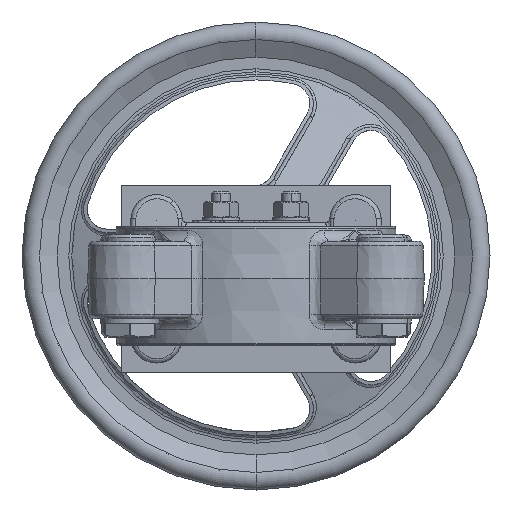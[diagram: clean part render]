
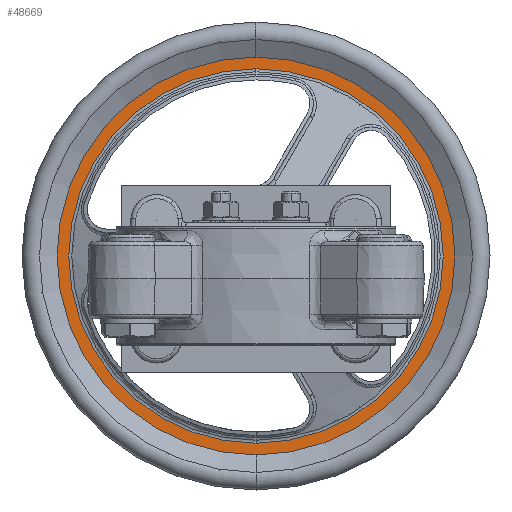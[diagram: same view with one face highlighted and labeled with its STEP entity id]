
A CAD part, front view. The second image highlights one B-rep face of the part: STEP entity #48669.
In plain terms, the highlighted planar face has unit normal (0, -1, 0).
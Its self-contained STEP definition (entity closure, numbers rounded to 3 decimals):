
#4218 = CARTESIAN_POINT ( 'NONE',  ( 0., 315., 9.75 ) ) ;
#7477 = DIRECTION ( 'NONE',  ( 0., 1., 0. ) ) ;
#11418 = CARTESIAN_POINT ( 'NONE',  ( 0., 315., -70.25 ) ) ;
#11598 = ORIENTED_EDGE ( 'NONE', *, *, #62574, .T. ) ;
#12718 = ORIENTED_EDGE ( 'NONE', *, *, #63543, .F. ) ;
#13590 = DIRECTION ( 'NONE',  ( 0., 0., -1. ) ) ;
#14060 = DIRECTION ( 'NONE',  ( 0., 0., -1. ) ) ;
#15931 = ORIENTED_EDGE ( 'NONE', *, *, #62147, .T. ) ;
#17453 = FACE_BOUND ( 'NONE', #60619, .T. ) ;
#19011 = CARTESIAN_POINT ( 'NONE',  ( 0., 315., 9.75 ) ) ;
#20856 = CIRCLE ( 'NONE', #56806, 85. ) ;
#21162 = DIRECTION ( 'NONE',  ( 0., 1., 0. ) ) ;
#22950 = CIRCLE ( 'NONE', #63477, 80. ) ;
#24645 = CARTESIAN_POINT ( 'NONE',  ( 0., 315., 94.75 ) ) ;
#24782 = VERTEX_POINT ( 'NONE', #11418 ) ;
#34174 = PLANE ( 'NONE',  #51846 ) ;
#35566 = VERTEX_POINT ( 'NONE', #45042 ) ;
#37168 = DIRECTION ( 'NONE',  ( 0., 0., -1. ) ) ;
#37558 = ORIENTED_EDGE ( 'NONE', *, *, #64993, .F. ) ;
#40466 = EDGE_LOOP ( 'NONE', ( #12718, #37558 ) ) ;
#41190 = DIRECTION ( 'NONE',  ( 0., 1., 0. ) ) ;
#41296 = DIRECTION ( 'NONE',  ( 0., 1., 0. ) ) ;
#41935 = DIRECTION ( 'NONE',  ( 0., 0., -1. ) ) ;
#42865 = VERTEX_POINT ( 'NONE', #24645 ) ;
#45042 = CARTESIAN_POINT ( 'NONE',  ( 0., 315., -75.25 ) ) ;
#45102 = CIRCLE ( 'NONE', #49745, 80. ) ;
#48669 = ADVANCED_FACE ( 'NONE', ( #17453, #50850 ), #34174, .T. ) ;
#49745 = AXIS2_PLACEMENT_3D ( 'NONE', #57138, #7477, #37168 ) ;
#50129 = DIRECTION ( 'NONE',  ( 0., 0., 1. ) ) ;
#50850 = FACE_OUTER_BOUND ( 'NONE', #40466, .T. ) ;
#51218 = DIRECTION ( 'NONE',  ( 0., -1., 0. ) ) ;
#51846 = AXIS2_PLACEMENT_3D ( 'NONE', #56286, #51218, #50129 ) ;
#56286 = CARTESIAN_POINT ( 'NONE',  ( 80., 315., 9.75 ) ) ;
#56806 = AXIS2_PLACEMENT_3D ( 'NONE', #4218, #21162, #41935 ) ;
#57138 = CARTESIAN_POINT ( 'NONE',  ( 0., 315., 9.75 ) ) ;
#57873 = CARTESIAN_POINT ( 'NONE',  ( 0., 315., 89.75 ) ) ;
#58756 = VERTEX_POINT ( 'NONE', #57873 ) ;
#60619 = EDGE_LOOP ( 'NONE', ( #11598, #15931 ) ) ;
#62147 = EDGE_CURVE ( 'NONE', #58756, #24782, #22950, .T. ) ;
#62574 = EDGE_CURVE ( 'NONE', #24782, #58756, #45102, .T. ) ;
#63037 = CARTESIAN_POINT ( 'NONE',  ( 0., 315., 9.75 ) ) ;
#63477 = AXIS2_PLACEMENT_3D ( 'NONE', #63037, #41296, #14060 ) ;
#63543 = EDGE_CURVE ( 'NONE', #35566, #42865, #20856, .T. ) ;
#63945 = AXIS2_PLACEMENT_3D ( 'NONE', #19011, #41190, #13590 ) ;
#64993 = EDGE_CURVE ( 'NONE', #42865, #35566, #67402, .T. ) ;
#67402 = CIRCLE ( 'NONE', #63945, 85. ) ;
